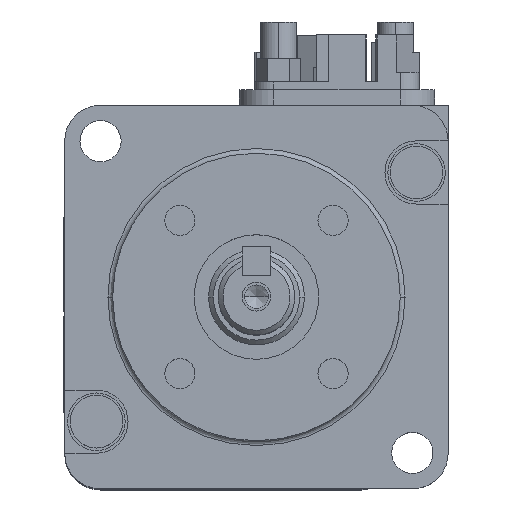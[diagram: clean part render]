
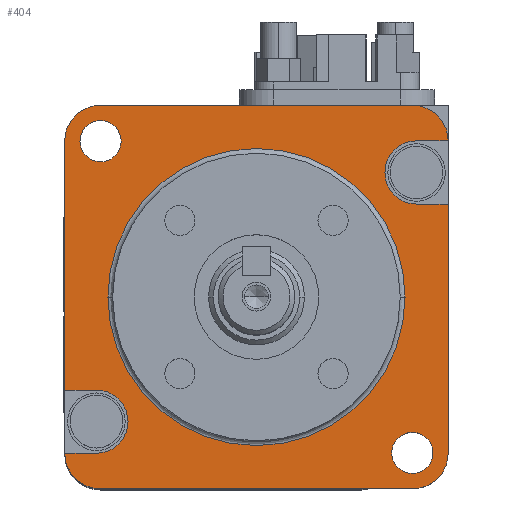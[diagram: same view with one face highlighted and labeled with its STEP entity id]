
A CAD part, top view. The second image highlights one B-rep face of the part: STEP entity #404.
In plain terms, the highlighted planar face has unit normal (0, 0, 1).
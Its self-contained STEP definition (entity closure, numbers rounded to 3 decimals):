
#404=ADVANCED_FACE('',(#3425,#3426,#3427,#3428),#3424,.T.);
#3424=PLANE('',#5602);
#3425=FACE_OUTER_BOUND('',#5603,.T.);
#3426=FACE_BOUND('',#5604,.T.);
#3427=FACE_BOUND('',#5605,.T.);
#3428=FACE_BOUND('',#5606,.T.);
#5599=CARTESIAN_POINT('',(-24.,-24.,0.));
#5600=DIRECTION('',(0.,0.,1.));
#5601=DIRECTION('',(1.,0.,0.));
#5602=AXIS2_PLACEMENT_3D('',#5599,#5600,#5601);
#5603=EDGE_LOOP('',(#7538,#7539,#7540,#7541,#7542,#7543,#7544,#7545,#7546,#7547,#7548,#7549,#7550,#7551));
#5604=EDGE_LOOP('',(#7552,#7553));
#5605=EDGE_LOOP('',(#7554,#7555));
#5606=EDGE_LOOP('',(#7556,#7557));
#7538=ORIENTED_EDGE('',*,*,#7866,.F.);
#7539=ORIENTED_EDGE('',*,*,#8303,.T.);
#7540=ORIENTED_EDGE('',*,*,#8644,.T.);
#7541=ORIENTED_EDGE('',*,*,#7933,.T.);
#7542=ORIENTED_EDGE('',*,*,#8641,.T.);
#7543=ORIENTED_EDGE('',*,*,#7858,.T.);
#7544=ORIENTED_EDGE('',*,*,#8627,.F.);
#7545=ORIENTED_EDGE('',*,*,#7843,.F.);
#7546=ORIENTED_EDGE('',*,*,#7930,.T.);
#7547=ORIENTED_EDGE('',*,*,#8642,.T.);
#7548=ORIENTED_EDGE('',*,*,#7926,.T.);
#7549=ORIENTED_EDGE('',*,*,#8643,.T.);
#7550=ORIENTED_EDGE('',*,*,#7870,.T.);
#7551=ORIENTED_EDGE('',*,*,#7874,.F.);
#7552=ORIENTED_EDGE('',*,*,#8645,.T.);
#7553=ORIENTED_EDGE('',*,*,#8646,.T.);
#7554=ORIENTED_EDGE('',*,*,#8647,.T.);
#7555=ORIENTED_EDGE('',*,*,#8648,.T.);
#7556=ORIENTED_EDGE('',*,*,#8649,.T.);
#7557=ORIENTED_EDGE('',*,*,#8650,.T.);
#7843=EDGE_CURVE('',#9023,#9024,#9025,.T.);
#7858=EDGE_CURVE('',#9125,#9126,#9127,.T.);
#7866=EDGE_CURVE('',#9179,#9180,#9181,.T.);
#7870=EDGE_CURVE('',#9207,#9208,#9209,.T.);
#7874=EDGE_CURVE('',#9180,#9208,#9235,.T.);
#7926=EDGE_CURVE('',#9590,#9583,#9591,.T.);
#7930=EDGE_CURVE('',#9023,#9611,#9618,.T.);
#7933=EDGE_CURVE('',#9637,#9630,#9638,.T.);
#8303=EDGE_CURVE('',#9179,#12095,#12102,.T.);
#8627=EDGE_CURVE('',#9024,#9126,#14270,.T.);
#8641=EDGE_CURVE('',#9630,#9125,#14366,.T.);
#8642=EDGE_CURVE('',#9611,#9590,#14372,.T.);
#8643=EDGE_CURVE('',#9583,#9207,#14378,.T.);
#8644=EDGE_CURVE('',#12095,#9637,#14384,.T.);
#8645=EDGE_CURVE('',#14390,#14391,#14392,.T.);
#8646=EDGE_CURVE('',#14391,#14390,#14398,.T.);
#8647=EDGE_CURVE('',#14404,#14405,#14406,.T.);
#8648=EDGE_CURVE('',#14405,#14404,#14412,.T.);
#8649=EDGE_CURVE('',#14418,#14419,#14420,.T.);
#8650=EDGE_CURVE('',#14419,#14418,#14426,.T.);
#9023=VERTEX_POINT('',#15051);
#9024=VERTEX_POINT('',#15052);
#9025=LINE('',#15053,#15054);
#9125=VERTEX_POINT('',#15118);
#9126=VERTEX_POINT('',#15119);
#9127=LINE('',#15120,#15121);
#9179=VERTEX_POINT('',#15151);
#9180=VERTEX_POINT('',#15152);
#9181=LINE('',#15153,#15154);
#9207=VERTEX_POINT('',#15167);
#9208=VERTEX_POINT('',#15168);
#9209=LINE('',#15169,#15170);
#9235=CIRCLE('',#15186,3.3);
#9583=VERTEX_POINT('',#15408);
#9590=VERTEX_POINT('',#15412);
#9591=CIRCLE('',#15416,3.7);
#9611=VERTEX_POINT('',#15426);
#9618=CIRCLE('',#15433,3.7);
#9630=VERTEX_POINT('',#15437);
#9637=VERTEX_POINT('',#15441);
#9638=CIRCLE('',#15445,3.7);
#12095=VERTEX_POINT('',#17058);
#12102=CIRCLE('',#17065,3.7);
#14270=CIRCLE('',#18341,3.3);
#14366=LINE('',#18406,#18407);
#14372=LINE('',#18409,#18410);
#14378=LINE('',#18412,#18413);
#14384=LINE('',#18415,#18416);
#14390=VERTEX_POINT('',#18418);
#14391=VERTEX_POINT('',#18419);
#14392=CIRCLE('',#18423,15.5);
#14398=CIRCLE('',#18427,15.5);
#14404=VERTEX_POINT('',#18428);
#14405=VERTEX_POINT('',#18429);
#14406=CIRCLE('',#18433,2.15);
#14412=CIRCLE('',#18437,2.15);
#14418=VERTEX_POINT('',#18438);
#14419=VERTEX_POINT('',#18439);
#14420=CIRCLE('',#18443,2.15);
#14426=CIRCLE('',#18447,2.15);
#15051=CARTESIAN_POINT('',(-20.,-16.3,0.));
#15052=CARTESIAN_POINT('',(-16.7,-16.3,0.));
#15053=CARTESIAN_POINT('',(-20.,-16.3,0.));
#15054=VECTOR('',#15055,3.3);
#15055=DIRECTION('',(1.,0.,0.));
#15118=CARTESIAN_POINT('',(-20.,-9.7,0.));
#15119=CARTESIAN_POINT('',(-16.7,-9.7,0.));
#15120=CARTESIAN_POINT('',(-20.,-9.7,0.));
#15121=VECTOR('',#15122,3.3);
#15122=DIRECTION('',(1.,0.,0.));
#15151=CARTESIAN_POINT('',(20.,16.3,0.));
#15152=CARTESIAN_POINT('',(16.7,16.3,0.));
#15153=CARTESIAN_POINT('',(20.,16.3,0.));
#15154=VECTOR('',#15155,3.3);
#15155=DIRECTION('',(-1.,0.,0.));
#15167=CARTESIAN_POINT('',(20.,9.7,0.));
#15168=CARTESIAN_POINT('',(16.7,9.7,0.));
#15169=CARTESIAN_POINT('',(20.,9.7,0.));
#15170=VECTOR('',#15171,3.3);
#15171=DIRECTION('',(-1.,0.,0.));
#15183=CARTESIAN_POINT('',(16.7,13.,0.));
#15184=DIRECTION('',(0.,0.,1.));
#15185=DIRECTION('',(0.,1.,0.));
#15186=AXIS2_PLACEMENT_3D('',#15183,#15184,#15185);
#15408=CARTESIAN_POINT('',(20.,-16.3,0.));
#15412=CARTESIAN_POINT('',(16.3,-20.,0.));
#15413=CARTESIAN_POINT('',(16.3,-16.3,0.));
#15414=DIRECTION('',(0.,0.,1.));
#15415=DIRECTION('',(0.,1.,0.));
#15416=AXIS2_PLACEMENT_3D('',#15413,#15414,#15415);
#15426=CARTESIAN_POINT('',(-16.3,-20.,0.));
#15430=CARTESIAN_POINT('',(-16.3,-16.3,0.));
#15431=DIRECTION('',(0.,0.,1.));
#15432=DIRECTION('',(1.,0.,0.));
#15433=AXIS2_PLACEMENT_3D('',#15430,#15431,#15432);
#15437=CARTESIAN_POINT('',(-20.,16.3,0.));
#15441=CARTESIAN_POINT('',(-16.3,20.,0.));
#15442=CARTESIAN_POINT('',(-16.3,16.3,0.));
#15443=DIRECTION('',(0.,0.,1.));
#15444=DIRECTION('',(0.,-1.,0.));
#15445=AXIS2_PLACEMENT_3D('',#15442,#15443,#15444);
#17058=CARTESIAN_POINT('',(16.3,20.,0.));
#17062=CARTESIAN_POINT('',(16.3,16.3,0.));
#17063=DIRECTION('',(0.,0.,1.));
#17064=DIRECTION('',(-1.,0.,0.));
#17065=AXIS2_PLACEMENT_3D('',#17062,#17063,#17064);
#18338=CARTESIAN_POINT('',(-16.7,-13.,0.));
#18339=DIRECTION('',(0.,0.,1.));
#18340=DIRECTION('',(-1.,0.,0.));
#18341=AXIS2_PLACEMENT_3D('',#18338,#18339,#18340);
#18406=CARTESIAN_POINT('',(-20.,16.3,0.));
#18407=VECTOR('',#18408,26.);
#18408=DIRECTION('',(0.,-1.,0.));
#18409=CARTESIAN_POINT('',(-16.3,-20.,0.));
#18410=VECTOR('',#18411,32.6);
#18411=DIRECTION('',(1.,0.,0.));
#18412=CARTESIAN_POINT('',(20.,-16.3,0.));
#18413=VECTOR('',#18414,26.);
#18414=DIRECTION('',(0.,1.,0.));
#18415=CARTESIAN_POINT('',(16.3,20.,0.));
#18416=VECTOR('',#18417,32.6);
#18417=DIRECTION('',(-1.,0.,0.));
#18418=CARTESIAN_POINT('',(15.5,0.,0.));
#18419=CARTESIAN_POINT('',(-15.5,0.,0.));
#18420=CARTESIAN_POINT('',(0.,0.,0.));
#18421=DIRECTION('',(0.,0.,-1.));
#18422=DIRECTION('',(1.,0.,0.));
#18423=AXIS2_PLACEMENT_3D('',#18420,#18421,#18422);
#18424=CARTESIAN_POINT('',(0.,0.,0.));
#18425=DIRECTION('',(0.,0.,-1.));
#18426=DIRECTION('',(1.,0.,0.));
#18427=AXIS2_PLACEMENT_3D('',#18424,#18425,#18426);
#18428=CARTESIAN_POINT('',(18.413,-16.263,0.));
#18429=CARTESIAN_POINT('',(14.113,-16.263,0.));
#18430=CARTESIAN_POINT('',(16.263,-16.263,0.));
#18431=DIRECTION('',(0.,0.,-1.));
#18432=DIRECTION('',(1.,0.,0.));
#18433=AXIS2_PLACEMENT_3D('',#18430,#18431,#18432);
#18434=CARTESIAN_POINT('',(16.263,-16.263,0.));
#18435=DIRECTION('',(0.,0.,-1.));
#18436=DIRECTION('',(1.,0.,0.));
#18437=AXIS2_PLACEMENT_3D('',#18434,#18435,#18436);
#18438=CARTESIAN_POINT('',(-14.113,16.263,0.));
#18439=CARTESIAN_POINT('',(-18.413,16.263,0.));
#18440=CARTESIAN_POINT('',(-16.263,16.263,0.));
#18441=DIRECTION('',(0.,0.,-1.));
#18442=DIRECTION('',(1.,0.,0.));
#18443=AXIS2_PLACEMENT_3D('',#18440,#18441,#18442);
#18444=CARTESIAN_POINT('',(-16.263,16.263,0.));
#18445=DIRECTION('',(0.,0.,-1.));
#18446=DIRECTION('',(1.,0.,0.));
#18447=AXIS2_PLACEMENT_3D('',#18444,#18445,#18446);
